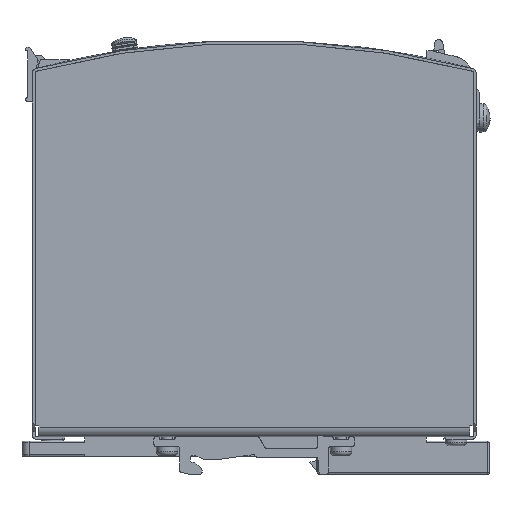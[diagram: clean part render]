
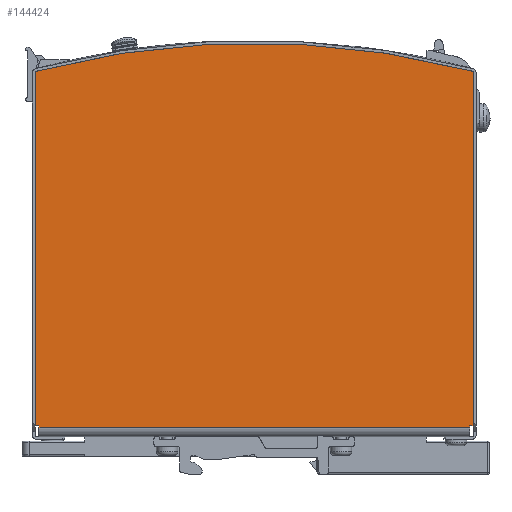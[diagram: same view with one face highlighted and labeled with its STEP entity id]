
A CAD part, front view. The second image highlights one B-rep face of the part: STEP entity #144424.
In plain terms, the highlighted planar face has unit normal (0, -1, 0).
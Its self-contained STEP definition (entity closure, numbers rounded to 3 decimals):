
#143792=CARTESIAN_POINT('',(60.15,-20.,3.));
#143793=VERTEX_POINT('',#143792);
#143800=CARTESIAN_POINT('',(60.15,-20.0,2.5));
#143801=VERTEX_POINT('',#143800);
#143802=CARTESIAN_POINT('',(60.15,-20.,3.));
#143803=DIRECTION('',(0.0,0.0,-1.0));
#143804=VECTOR('',#143803,0.5);
#143805=LINE('',#143802,#143804);
#143806=EDGE_CURVE('',#143793,#143801,#143805,.T.);
#143949=CARTESIAN_POINT('',(-60.15,-20.0,2.5));
#143950=VERTEX_POINT('',#143949);
#143960=CARTESIAN_POINT('',(-60.15,-20.,3.));
#143961=VERTEX_POINT('',#143960);
#143962=CARTESIAN_POINT('',(-60.15,-20.0,2.5));
#143963=DIRECTION('',(0.0,0.0,1.0));
#143964=VECTOR('',#143963,0.5);
#143965=LINE('',#143962,#143964);
#143966=EDGE_CURVE('',#143950,#143961,#143965,.T.);
#144300=CARTESIAN_POINT('',(61.15,-20.,3.));
#144301=VERTEX_POINT('',#144300);
#144308=CARTESIAN_POINT('',(61.15,-20.,3.));
#144309=DIRECTION('',(-1.0,0.0,0.0));
#144310=VECTOR('',#144309,1.0);
#144311=LINE('',#144308,#144310);
#144312=EDGE_CURVE('',#144301,#143793,#144311,.T.);
#144324=CARTESIAN_POINT('',(60.15,-20.0,2.5));
#144325=DIRECTION('',(-1.0,0.0,0.0));
#144326=VECTOR('',#144325,120.3);
#144327=LINE('',#144324,#144326);
#144328=EDGE_CURVE('',#143801,#143950,#144327,.T.);
#144382=CARTESIAN_POINT('',(61.15,-20.0,1.5));
#144383=DIRECTION('',(0.0,1.0,0.0));
#144384=DIRECTION('',(0.0,0.0,1.0));
#144385=AXIS2_PLACEMENT_3D('',#144382,#144383,#144384);
#144386=PLANE('',#144385);
#144387=ORIENTED_EDGE('',*,*,#144312,.F.);
#144388=CARTESIAN_POINT('',(61.15,-20.,102.079));
#144389=VERTEX_POINT('',#144388);
#144390=CARTESIAN_POINT('',(61.15,-20.,3.));
#144391=DIRECTION('',(0.0,0.0,1.0));
#144392=VECTOR('',#144391,99.079);
#144393=LINE('',#144390,#144392);
#144394=EDGE_CURVE('',#144301,#144389,#144393,.T.);
#144395=ORIENTED_EDGE('',*,*,#144394,.T.);
#144396=CARTESIAN_POINT('',(-61.15,-20.,102.079));
#144397=VERTEX_POINT('',#144396);
#144398=CARTESIAN_POINT('',(0.,-20.,-130.0));
#144399=DIRECTION('',(0.0,1.0,0.0));
#144400=DIRECTION('',(0.0,0.0,-1.0));
#144401=AXIS2_PLACEMENT_3D('',#144398,#144399,#144400);
#144402=CIRCLE('',#144401,240.0);
#144403=EDGE_CURVE('',#144397,#144389,#144402,.T.);
#144404=ORIENTED_EDGE('',*,*,#144403,.F.);
#144405=CARTESIAN_POINT('',(-61.15,-20.,3.));
#144406=VERTEX_POINT('',#144405);
#144407=CARTESIAN_POINT('',(-61.15,-20.,102.079));
#144408=DIRECTION('',(0.0,0.0,-1.0));
#144409=VECTOR('',#144408,99.079);
#144410=LINE('',#144407,#144409);
#144411=EDGE_CURVE('',#144397,#144406,#144410,.T.);
#144412=ORIENTED_EDGE('',*,*,#144411,.T.);
#144413=CARTESIAN_POINT('',(-61.15,-20.,3.));
#144414=DIRECTION('',(1.0,0.,0.));
#144415=VECTOR('',#144414,1.);
#144416=LINE('',#144413,#144415);
#144417=EDGE_CURVE('',#144406,#143961,#144416,.T.);
#144418=ORIENTED_EDGE('',*,*,#144417,.T.);
#144419=ORIENTED_EDGE('',*,*,#143966,.F.);
#144420=ORIENTED_EDGE('',*,*,#144328,.F.);
#144421=ORIENTED_EDGE('',*,*,#143806,.F.);
#144422=EDGE_LOOP('',(#144387,#144395,#144404,#144412,#144418,#144419,#144420,#144421));
#144423=FACE_OUTER_BOUND('',#144422,.T.);
#144424=ADVANCED_FACE('',(#144423),#144386,.F.);
